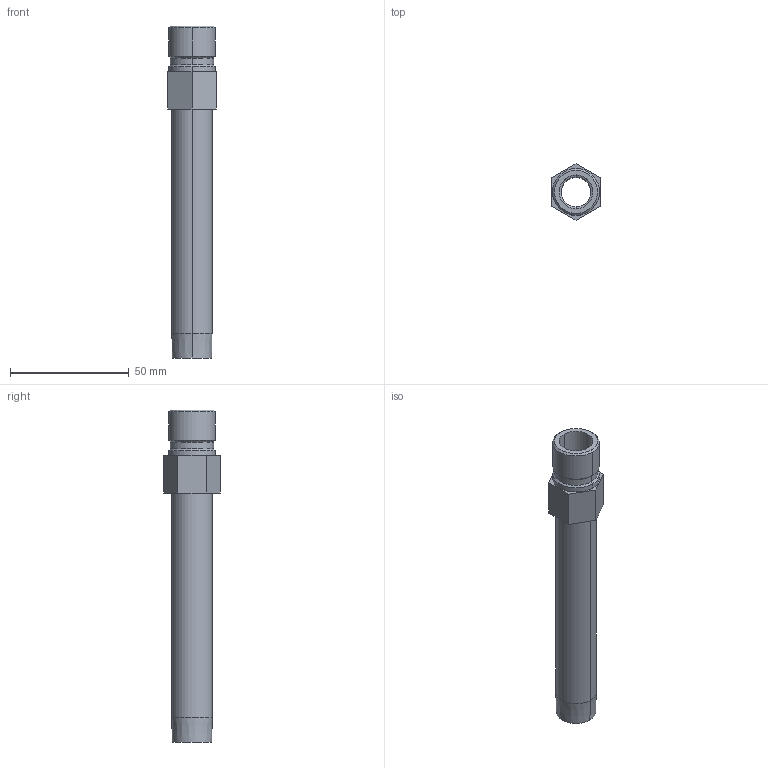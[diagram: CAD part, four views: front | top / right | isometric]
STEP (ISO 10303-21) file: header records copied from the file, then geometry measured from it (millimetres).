
FILE_DESCRIPTION (( 'STEP AP203' ), '1' );
FILE_NAME ('553L5.5.step', '2020-08-19T05:10:59', ( 'Microsoft Corporation' ), ( 'MS' ), 'SwSTEP 2.0', 'SolidWorks 2018', '' );
FILE_SCHEMA (( 'CONFIG_CONTROL_DESIGN' ));
Length unit declared in the file: inch
Products named in the file (1): 553L5.5
Bounding box: 20.57 x 23.76 x 139.7 mm (x, y, z)
Volume: 17684.8 mm3; surface area: 13981.1 mm2
Topology: 1 solids, 1 shells, 32 faces, 68 edges, 40 vertices
Faces by surface type: cylinder 12, cone 10, plane 10
Entity records: 935 total; most frequent: DIRECTION 162, CARTESIAN_POINT 141, ORIENTED_EDGE 136, EDGE_CURVE 68, AXIS2_PLACEMENT_3D 61, VERTEX_POINT 40, LINE 40, VECTOR 40
